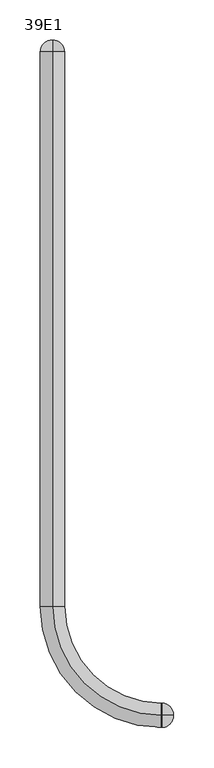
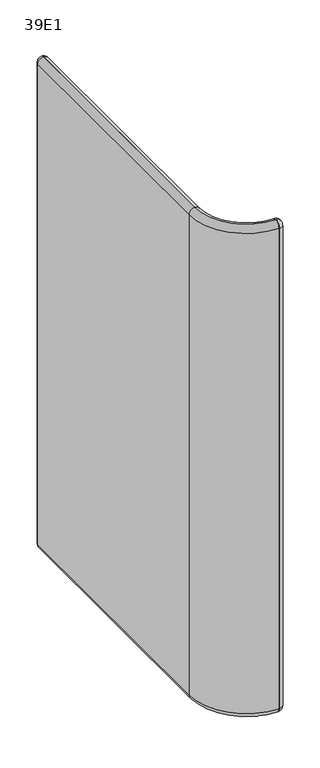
"""IFC4 building model written with IfcOpenShell, lengths in millimetres: furniture geometry, Nooa Screen - Armrest Unit : 39E1."""

from ifc_helpers import new_model, si_unit, point, frame, origin, place, context, project, spatial, polyline, circle_curve, ellipse_curve, trimmed, source, transform, mapped, element, save
from ifc_brep_helpers import plane_surface, cylinder_surface, revolved_surface, advanced_brep


def furniture_39e1_0c7d0f28(model_context):
    return source(origin(), model_context, "Body", "AdvancedBrep", [
        advanced_brep(
        [(-150.0, 685.0, 1586.0), (-150.0, 685.0, 254.0), (-151.0, 685.0, 255.0), (-151.0, 685.0, 1585.0), (0.0, -150.0, 254.0), (0.0, -150.0, 1586.0), (0.0, -151.0, 1585.0), (0.0, -151.0, 255.0), (-165.0, -15.0, 1585.0), (-150.0, -15.0, 1600.0), (-150.0, 671.0, 1600.0), (-165.0, 671.0, 1585.0), (-165.0, -15.0, 255.0), (-165.0, 671.0, 255.0), (-150.0, -15.0, 240.0), (-150.0, 671.0, 240.0), (-15.0, -150.0, 1600.0), (-15.0, -165.0, 1585.0), (-14.0, -165.0, 1585.0), (-14.0, -150.0, 1600.0), (-15.0, -165.0, 255.0), (-14.0, -165.0, 255.0), (-15.0, -150.0, 240.0), (-14.0, -150.0, 240.0)],
        [
            (0, 1),
            (1, 2, circle_curve(frame((-150.0, 685.0, 255.0), z_axis=(0.0, 1.0, 0.0), x_axis=(-1.0, 0.0, 0.0)), 1.0)),
            (2, 3),
            (3, 0, circle_curve(frame((-150.0, 685.0, 1585.0), z_axis=(0.0, 1.0, 0.0), x_axis=(1.0, 0.0, 0.0)), 1.0)),
            (4, 5),
            (5, 6, circle_curve(frame((0.0, -150.0, 1585.0), z_axis=(1.0, 0.0, 0.0), x_axis=(0.0, 1.0, 0.0)), 1.0)),
            (6, 7),
            (7, 4, circle_curve(frame((0.0, -150.0, 255.0), z_axis=(1.0, 0.0, 0.0), x_axis=(0.0, -1.0, 0.0)), 1.0)),
            (8, 9, circle_curve(frame((-150.0, -15.0, 1585.0), z_axis=(0.0, 1.0, 0.0), x_axis=(1.0, 0.0, 0.0)), 15.0)),
            (9, 10),
            (10, 11, circle_curve(frame((-150.0, 671.0, 1585.0), z_axis=(0.0, -1.0, 0.0), x_axis=(1.0, 0.0, 0.0)), 15.0)),
            (11, 8),
            (12, 8),
            (11, 13),
            (13, 12),
            (14, 12, circle_curve(frame((-150.0, -15.0, 255.0), z_axis=(0.0, 1.0, 0.0), x_axis=(1.0, 0.0, 0.0)), 15.0)),
            (13, 15, circle_curve(frame((-150.0, 671.0, 255.0), z_axis=(0.0, -1.0, 0.0), x_axis=(1.0, 0.0, 0.0)), 15.0)),
            (15, 14),
            (9, 14),
            (15, 1, circle_curve(frame((-150.0, 671.0, 254.0), z_axis=(1.0, 0.0, 0.0), x_axis=(0.0, -1.0, 0.0)), 14.0)),
            (0, 10, circle_curve(frame((-150.0, 671.0, 1586.0), z_axis=(1.0, 0.0, 0.0), x_axis=(0.0, -1.0, 0.0)), 14.0)),
            (16, 17, circle_curve(frame((-15.0, -150.0, 1585.0), z_axis=(1.0, 0.0, 0.0), x_axis=(0.0, 1.0, 0.0)), 15.0)),
            (17, 18),
            (18, 19, circle_curve(frame((-14.0, -150.0, 1585.0), z_axis=(-1.0, 0.0, 0.0), x_axis=(0.0, 1.0, 0.0)), 15.0)),
            (19, 16),
            (17, 20),
            (20, 21),
            (21, 18),
            (20, 22, circle_curve(frame((-15.0, -150.0, 255.0), z_axis=(1.0, 0.0, 0.0), x_axis=(0.0, 1.0, 0.0)), 15.0)),
            (22, 23),
            (23, 21, circle_curve(frame((-14.0, -150.0, 255.0), z_axis=(-1.0, 0.0, 0.0), x_axis=(0.0, 1.0, 0.0)), 15.0)),
            (22, 16),
            (19, 5, circle_curve(frame((-14.0, -150.0, 1586.0), z_axis=(0.0, 1.0, 0.0), x_axis=(0.0, 0.0, -1.0)), 14.0)),
            (4, 23, circle_curve(frame((-14.0, -150.0, 254.0), z_axis=(0.0, 1.0, -2.43357052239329e-12), x_axis=(0.0, 2.43357052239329e-12, 1.0)), 14.0)),
            (8, 17, circle_curve(frame((-15.0, -15.0, 1585.0), z_axis=(0.0, 0.0, 1.0), x_axis=(-1.0, 0.0, 0.0)), 150.0)),
            (16, 9, circle_curve(frame((-15.0, -15.0, 1600.0), z_axis=(0.0, 0.0, -1.0), x_axis=(-1.0, 0.0, 0.0)), 135.0)),
            (12, 20, circle_curve(frame((-15.0, -15.0, 255.0), z_axis=(0.0, 0.0, 1.0), x_axis=(-1.0, 0.0, 0.0)), 150.0)),
            (14, 22, circle_curve(frame((-15.0, -15.0, 240.0), z_axis=(0.0, 0.0, 1.0), x_axis=(-1.0, 0.0, 0.0)), 135.0)),
            (3, 11, circle_curve(frame((-151.0, 671.0, 1585.0), z_axis=(0.0, 0.0, 1.0), x_axis=(0.0, -1.0, 0.0)), 14.0)),
            (2, 13, circle_curve(frame((-151.0, 671.0, 255.0), z_axis=(0.0, 0.0, 1.0), x_axis=(0.0, -1.0, 0.0)), 14.0)),
            (7, 21, circle_curve(frame((-14.0, -151.0, 255.0), z_axis=(0.0, 0.0, -1.0), x_axis=(0.0, 1.0, 0.0)), 14.0)),
            (18, 6, circle_curve(frame((-14.0, -151.0, 1585.0), z_axis=(0.0, 0.0, 1.0), x_axis=(0.0, 1.0, 0.0)), 14.0)),
        ],
        [
            plane_surface(frame((-145.0, 685.0, 0.0), z_axis=(0.0, 1.0, 0.0), x_axis=(0.0, 0.0, 1.0))),
            plane_surface(frame((0.0, -145.0, 0.0), z_axis=(1.0, 0.0, 0.0), x_axis=(0.0, 0.0, 1.0))),
            cylinder_surface(frame((-150.0, 685.0, 1585.0), z_axis=(0.0, 1.0, 0.0), x_axis=(1.0, 0.0, 0.0)), 15.0),
            plane_surface(frame((-165.0, 685.0, 255.0), z_axis=(-1.0, 0.0, 0.0), x_axis=(0.0, -1.0, 0.0))),
            cylinder_surface(frame((-150.0, 685.0, 255.0), z_axis=(0.0, 1.0, 0.0), x_axis=(1.0, 0.0, 0.0)), 15.0),
            plane_surface(frame((-150.0, 685.0, 1600.0), z_axis=(1.0, 0.0, 0.0), x_axis=(0.0, -1.0, 0.0))),
            cylinder_surface(frame((-15.0, -150.0, 1585.0), z_axis=(-1.0, 0.0, 0.0), x_axis=(0.0, 1.0, 0.0)), 15.0),
            plane_surface(frame((-15.0, -165.0, 255.0), z_axis=(0.0, -1.0, 0.0), x_axis=(1.0, 0.0, 0.0))),
            cylinder_surface(frame((-15.0, -150.0, 255.0), z_axis=(-1.0, 0.0, 0.0), x_axis=(0.0, 1.0, 0.0)), 15.0),
            plane_surface(frame((-15.0, -150.0, 1600.0), z_axis=(0.0, 1.0, 0.0), x_axis=(1.0, 0.0, 0.0))),
            revolved_surface(trimmed(ellipse_curve(frame((-150.0, -15.0, 1585.0), z_axis=(0.0, 1.0, 0.0), x_axis=(1.0, 0.0, 0.0)), 15.0, 15.0), [point((-165.0, -15.0, 1585.0))], [point((-150.0, -15.0, 1600.0))], True, "CARTESIAN"), (-15.0, -15.0, 0.0), (0.0, 0.0, 1.0)),
            cylinder_surface(frame((-15.0, -15.0, 0.0), z_axis=(0.0, 0.0, 1.0), x_axis=(-1.0, 0.0, 0.0)), 150.0),
            revolved_surface(trimmed(ellipse_curve(frame((-150.0, -15.0, 255.0), z_axis=(0.0, 1.0, 0.0), x_axis=(1.0, 0.0, 0.0)), 15.0, 15.0), [point((-150.0, -15.0, 240.0))], [point((-165.0, -15.0, 255.0))], True, "CARTESIAN"), (-15.0, -15.0, 0.0), (0.0, 0.0, 1.0)),
            revolved_surface(polyline([(-150.0, -15.0, 1600.0), (-150.0, -15.0, 240.0)]), (-15.0, -15.0, 0.0), (0.0, 0.0, 1.0)),
            revolved_surface(trimmed(ellipse_curve(frame((-149.0, 671.0, 1585.0), z_axis=(0.0, 0.0, -1.0), x_axis=(0.0, -1.0, 0.0)), 14.0, 14.0), [point((-149.0, 685.0, 1585.0))], [point((-135.0, 671.0, 1585.0))], True, "CARTESIAN"), (-150.0, 685.0, 1585.0), (0.0, -1.0, 0.0)),
            cylinder_surface(frame((-151.0, 671.0, 1585.0), z_axis=(0.0, 0.0, -1.0), x_axis=(0.0, -1.0, 0.0)), 14.0),
            revolved_surface(trimmed(ellipse_curve(frame((-151.0, 671.0, 255.0), z_axis=(0.0, 0.0, 1.0), x_axis=(0.0, -1.0, 0.0)), 14.0, 14.0), [point((-151.0, 685.0, 255.0))], [point((-165.0, 671.0, 255.0))], True, "CARTESIAN"), (-150.0, 685.0, 255.0), (0.0, -1.0, 0.0)),
            revolved_surface(trimmed(ellipse_curve(frame((-14.0, -151.0, 255.0), z_axis=(0.0, 0.0, 1.0), x_axis=(0.0, 1.0, 0.0)), 14.0, 14.0), [point((-14.0, -165.0, 255.0))], [point((0.0, -151.0, 255.0))], True, "CARTESIAN"), (0.0, -150.0, 255.0), (1.0, 0.0, 0.0)),
            revolved_surface(trimmed(ellipse_curve(frame((-14.0, -149.0, 1585.0), z_axis=(0.0, 0.0, -1.0), x_axis=(0.0, -1.0, 0.0)), 14.0, 14.0), [point((-14.0, -135.0, 1585.0))], [point((0.0, -149.0, 1585.0))], True, "CARTESIAN"), (0.0, -150.0, 1585.0), (1.0, 0.0, 0.0)),
            cylinder_surface(frame((-14.0, -151.0, 1585.0), z_axis=(0.0, 0.0, -1.0), x_axis=(0.0, 1.0, 0.0)), 14.0),
        ],
        [
            (0, [[1, 2, 3, 4]]),
            (1, [[5, 6, 7, 8]]),
            (2, [[9, 10, 11, 12]]),
            (3, [[13, -12, 14, 15]]),
            (4, [[16, -15, 17, 18]]),
            (5, [[19, -18, 20, -1, 21, -10]]),
            (6, [[22, 23, 24, 25]]),
            (7, [[26, 27, 28, -23]]),
            (8, [[29, 30, 31, -27]]),
            (9, [[32, -25, 33, -5, 34, -30]]),
            (10, [[-9, 35, -22, 36]]),
            (11, [[-13, 37, -26, -35]]),
            (12, [[-16, 38, -29, -37]]),
            (13, [[-19, -36, -32, -38]]),
            (14, [[39, -11, -21, -4]]),
            (15, [[-39, -3, 40, -14]]),
            (16, [[-40, -2, -20, -17]]),
            (17, [[41, -31, -34, -8]]),
            (18, [[42, -6, -33, -24]]),
            (19, [[-41, -7, -42, -28]]),
        ],
    ),
        advanced_brep(
        [(-150.0, 685.0, 254.0), (-150.0, 685.0, 1586.0), (-149.0, 685.0, 1585.0), (-149.0, 685.0, 255.0), (-150.0, -15.0, 240.0), (-150.0, -15.0, 1600.0), (-150.0, 671.0, 1600.0), (-150.0, 671.0, 240.0), (-135.0, -15.0, 255.0), (-135.0, 671.0, 255.0), (-135.0, -15.0, 1585.0), (-135.0, 671.0, 1585.0), (0.0, -150.0, 1586.0), (0.0, -150.0, 254.0), (0.0, -149.0, 255.0), (0.0, -149.0, 1585.0), (-15.0, -150.0, 1600.0), (-15.0, -150.0, 240.0), (-14.0, -150.0, 240.0), (-14.0, -150.0, 1600.0), (-15.0, -135.0, 255.0), (-14.0, -135.0, 255.0), (-15.0, -135.0, 1585.0), (-14.0, -135.0, 1585.0)],
        [
            (0, 1),
            (1, 2, circle_curve(frame((-150.0, 685.0, 1585.0), z_axis=(0.0, 1.0, 0.0), x_axis=(1.0, 0.0, 0.0)), 1.0)),
            (2, 3),
            (3, 0, circle_curve(frame((-150.0, 685.0, 255.0), z_axis=(0.0, 1.0, 0.0), x_axis=(-1.0, 0.0, 0.0)), 1.0)),
            (4, 5),
            (5, 6),
            (6, 1, circle_curve(frame((-150.0, 671.0, 1586.0), z_axis=(-1.0, 0.0, 0.0), x_axis=(0.0, -1.0, 0.0)), 14.0)),
            (0, 7, circle_curve(frame((-150.0, 671.0, 254.0), z_axis=(-1.0, 0.0, 0.0), x_axis=(0.0, -1.0, 0.0)), 14.0)),
            (7, 4),
            (8, 4, circle_curve(frame((-150.0, -15.0, 255.0), z_axis=(0.0, 1.0, 0.0), x_axis=(1.0, 0.0, 0.0)), 15.0)),
            (7, 9, circle_curve(frame((-150.0, 671.0, 255.0), z_axis=(0.0, -1.0, 0.0), x_axis=(1.0, 0.0, 0.0)), 15.0)),
            (9, 8),
            (10, 8),
            (9, 11),
            (11, 10),
            (5, 10, circle_curve(frame((-150.0, -15.0, 1585.0), z_axis=(0.0, 1.0, 0.0), x_axis=(1.0, 0.0, 0.0)), 15.0)),
            (11, 6, circle_curve(frame((-150.0, 671.0, 1585.0), z_axis=(0.0, -1.0, 0.0), x_axis=(1.0, 0.0, 0.0)), 15.0)),
            (12, 13),
            (13, 14, circle_curve(frame((0.0, -150.0, 255.0), z_axis=(1.0, 0.0, 0.0), x_axis=(0.0, -1.0, 0.0)), 1.0)),
            (14, 15),
            (15, 12, circle_curve(frame((0.0, -150.0, 1585.0), z_axis=(1.0, 0.0, 0.0), x_axis=(0.0, 1.0, 0.0)), 1.0)),
            (16, 17),
            (17, 18),
            (18, 13, circle_curve(frame((-14.0, -150.0, 254.0), z_axis=(0.0, -1.0, 0.0), x_axis=(0.0, 0.0, 1.0)), 14.0)),
            (12, 19, circle_curve(frame((-14.0, -150.0, 1586.0), z_axis=(0.0, -1.0, 4.331485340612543e-12), x_axis=(0.0, -4.331485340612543e-12, -1.0)), 14.0)),
            (19, 16),
            (17, 20, circle_curve(frame((-15.0, -150.0, 255.0), z_axis=(1.0, 0.0, 0.0), x_axis=(0.0, 1.0, 0.0)), 15.0)),
            (20, 21),
            (21, 18, circle_curve(frame((-14.0, -150.0, 255.0), z_axis=(-1.0, 0.0, 0.0), x_axis=(0.0, 1.0, 0.0)), 15.0)),
            (20, 22),
            (22, 23),
            (23, 21),
            (22, 16, circle_curve(frame((-15.0, -150.0, 1585.0), z_axis=(1.0, 0.0, 0.0), x_axis=(0.0, 1.0, 0.0)), 15.0)),
            (19, 23, circle_curve(frame((-14.0, -150.0, 1585.0), z_axis=(-1.0, 0.0, 0.0), x_axis=(0.0, 1.0, 0.0)), 15.0)),
            (4, 17, circle_curve(frame((-15.0, -15.0, 240.0), z_axis=(0.0, 0.0, 1.0), x_axis=(-1.0, 0.0, 0.0)), 135.0)),
            (16, 5, circle_curve(frame((-15.0, -15.0, 1600.0), z_axis=(0.0, 0.0, -1.0), x_axis=(-1.0, 0.0, 0.0)), 135.0)),
            (8, 20, circle_curve(frame((-15.0, -15.0, 255.0), z_axis=(0.0, 0.0, 1.0), x_axis=(-1.0, 0.0, 0.0)), 120.0)),
            (10, 22, circle_curve(frame((-15.0, -15.0, 1585.0), z_axis=(0.0, 0.0, 1.0), x_axis=(-1.0, 0.0, 0.0)), 120.0)),
            (11, 2, circle_curve(frame((-149.0, 671.0, 1585.0), z_axis=(0.0, 0.0, 1.0), x_axis=(0.0, -1.0, 0.0)), 14.0)),
            (3, 9, circle_curve(frame((-149.0, 671.0, 255.0), z_axis=(0.0, 0.0, -1.0), x_axis=(0.0, -1.0, 0.0)), 14.0)),
            (21, 14, circle_curve(frame((-14.0, -149.0, 255.0), z_axis=(0.0, 0.0, -1.0), x_axis=(0.0, -1.0, 0.0)), 14.0)),
            (23, 15, circle_curve(frame((-14.0, -149.0, 1585.0), z_axis=(0.0, 0.0, -1.0), x_axis=(0.0, -1.0, 0.0)), 14.0)),
        ],
        [
            plane_surface(frame((-145.0, 685.0, 0.0), z_axis=(0.0, 1.0, 0.0), x_axis=(0.0, 0.0, 1.0))),
            plane_surface(frame((-150.0, 685.0, 240.0), z_axis=(-1.0, 0.0, 0.0), x_axis=(0.0, -1.0, 0.0))),
            cylinder_surface(frame((-150.0, 685.0, 255.0), z_axis=(0.0, 1.0, 0.0), x_axis=(1.0, 0.0, 0.0)), 15.0),
            plane_surface(frame((-135.0, 685.0, 1585.0), z_axis=(1.0, 0.0, 0.0), x_axis=(0.0, -1.0, 0.0))),
            cylinder_surface(frame((-150.0, 685.0, 1585.0), z_axis=(0.0, 1.0, 0.0), x_axis=(1.0, 0.0, 0.0)), 15.0),
            plane_surface(frame((0.0, -145.0, 0.0), z_axis=(1.0, 0.0, 0.0), x_axis=(0.0, 0.0, 1.0))),
            plane_surface(frame((-15.0, -150.0, 240.0), z_axis=(0.0, -1.0, 0.0), x_axis=(1.0, 0.0, 0.0))),
            cylinder_surface(frame((-15.0, -150.0, 255.0), z_axis=(-1.0, 0.0, 0.0), x_axis=(0.0, 1.0, 0.0)), 15.0),
            plane_surface(frame((-15.0, -135.0, 1585.0), z_axis=(0.0, 1.0, 0.0), x_axis=(1.0, 0.0, 0.0))),
            cylinder_surface(frame((-15.0, -150.0, 1585.0), z_axis=(-1.0, 0.0, 0.0), x_axis=(0.0, 1.0, 0.0)), 15.0),
            cylinder_surface(frame((-15.0, -15.0, 0.0), z_axis=(0.0, 0.0, 1.0), x_axis=(-1.0, 0.0, 0.0)), 135.0),
            revolved_surface(trimmed(ellipse_curve(frame((-150.0, -15.0, 255.0), z_axis=(0.0, 1.0, 0.0), x_axis=(1.0, 0.0, 0.0)), 15.0, 15.0), [point((-135.0, -15.0, 255.0))], [point((-150.0, -15.0, 240.0))], True, "CARTESIAN"), (-15.0, -15.0, 0.0), (0.0, 0.0, 1.0)),
            revolved_surface(polyline([(-135.0, -15.0, 1585.0), (-135.0, -15.0, 255.0)]), (-15.0, -15.0, 0.0), (0.0, 0.0, 1.0)),
            revolved_surface(trimmed(ellipse_curve(frame((-150.0, -15.0, 1585.0), z_axis=(0.0, 1.0, 0.0), x_axis=(1.0, 0.0, 0.0)), 15.0, 15.0), [point((-150.0, -15.0, 1600.0))], [point((-135.0, -15.0, 1585.0))], True, "CARTESIAN"), (-15.0, -15.0, 0.0), (0.0, 0.0, 1.0)),
            revolved_surface(trimmed(ellipse_curve(frame((-149.0, 671.0, 1585.0), z_axis=(0.0, 0.0, -1.0), x_axis=(0.0, -1.0, 0.0)), 14.0, 14.0), [point((-149.0, 685.0, 1585.0))], [point((-135.0, 671.0, 1585.0))], True, "CARTESIAN"), (-150.0, 685.0, 1585.0), (0.0, -1.0, 0.0)),
            revolved_surface(trimmed(ellipse_curve(frame((-151.0, 671.0, 255.0), z_axis=(0.0, 0.0, 1.0), x_axis=(0.0, -1.0, 0.0)), 14.0, 14.0), [point((-151.0, 685.0, 255.0))], [point((-165.0, 671.0, 255.0))], True, "CARTESIAN"), (-150.0, 685.0, 255.0), (0.0, -1.0, 0.0)),
            cylinder_surface(frame((-149.0, 671.0, 255.0), z_axis=(0.0, 0.0, 1.0), x_axis=(0.0, -1.0, 0.0)), 14.0),
            revolved_surface(trimmed(ellipse_curve(frame((-14.0, -151.0, 255.0), z_axis=(0.0, 0.0, 1.0), x_axis=(0.0, 1.0, 0.0)), 14.0, 14.0), [point((-14.0, -165.0, 255.0))], [point((0.0, -151.0, 255.0))], True, "CARTESIAN"), (0.0, -150.0, 255.0), (1.0, 0.0, 0.0)),
            cylinder_surface(frame((-14.0, -149.0, 255.0), z_axis=(0.0, 0.0, 1.0), x_axis=(0.0, -1.0, 0.0)), 14.0),
            revolved_surface(trimmed(ellipse_curve(frame((-14.0, -149.0, 1585.0), z_axis=(0.0, 0.0, -1.0), x_axis=(0.0, -1.0, 0.0)), 14.0, 14.0), [point((-14.0, -135.0, 1585.0))], [point((0.0, -149.0, 1585.0))], True, "CARTESIAN"), (0.0, -150.0, 1585.0), (1.0, 0.0, 0.0)),
        ],
        [
            (0, [[1, 2, 3, 4]]),
            (1, [[5, 6, 7, -1, 8, 9]]),
            (2, [[10, -9, 11, 12]]),
            (3, [[13, -12, 14, 15]]),
            (4, [[16, -15, 17, -6]]),
            (5, [[18, 19, 20, 21]]),
            (6, [[22, 23, 24, -18, 25, 26]]),
            (7, [[27, 28, 29, -23]]),
            (8, [[30, 31, 32, -28]]),
            (9, [[33, -26, 34, -31]]),
            (10, [[-5, 35, -22, 36]]),
            (11, [[-10, 37, -27, -35]]),
            (12, [[-13, 38, -30, -37]]),
            (13, [[-16, -36, -33, -38]]),
            (14, [[39, -2, -7, -17]]),
            (15, [[40, -11, -8, -4]]),
            (16, [[-39, -14, -40, -3]]),
            (17, [[41, -19, -24, -29]]),
            (18, [[-41, -32, 42, -20]]),
            (19, [[-42, -34, -25, -21]]),
        ],
    ),
    ])


if __name__ == "__main__":
    model = new_model("IFC4")
    model_context = context("Model", 3, world=origin())
    ifc_project = project(units=[si_unit("LENGTHUNIT", "METRE", prefix="MILLI")], contexts=[model_context])
    site = spatial("IfcSite", under=ifc_project)
    building = spatial("IfcBuilding", under=site)
    placement = place(None, origin())
    furniture_39e1_shape = furniture_39e1_0c7d0f28(model_context)
    element("IfcFurniture", 1, ObjectType="Nooa Screen - Armrest Unit : 39E1", at=placement, inside=building, context=model_context, shape_type="MappedRepresentation", body=[
        mapped(furniture_39e1_shape, transform((0.0, 0.0, 0.0), x_axis=(1.0, 0.0, 0.0), y_axis=(0.0, 1.0, 0.0), z_axis=(0.0, 0.0, 1.0))),
    ])
    save(model, "model.ifc")
